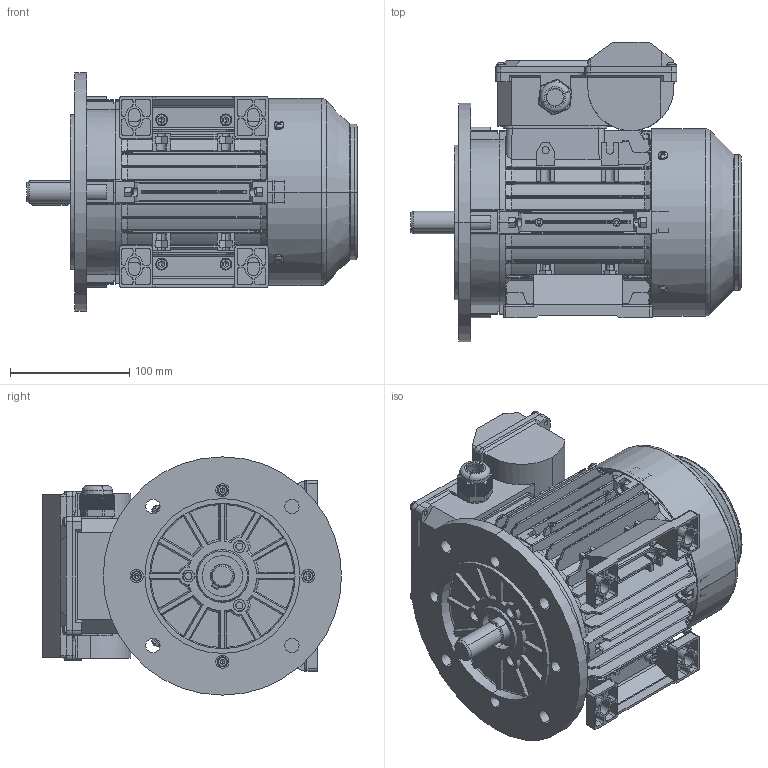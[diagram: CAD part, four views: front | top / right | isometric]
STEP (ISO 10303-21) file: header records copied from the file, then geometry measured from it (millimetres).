
FILE_DESCRIPTION (( 'STEP AP203' ), '1' );
FILE_NAME ('MY2 80 B35.STEP', '2023-08-23T02:05:54', ( '' ), ( '' ), 'SwSTEP 2.0', 'SolidWorks 2016', '' );
FILE_SCHEMA (( 'CONFIG_CONTROL_DESIGN' ));
Length unit declared in the file: millimetre
Products named in the file (19): TA80綴傷裔1; TA80蛌粣; MY80-MY100諉盄碟釱(142x152); cross recessed thread forming screws gb_GB_CROSS_SCREWS_TYPE138 M4X10-N; hexagon socket head cap screws gb_GB_FASTENER_SCREWS_HSHCS M6X20-N; TA80 B5傷裔1; hexagon nuts grade c gb_GB_FASTENER_NUT_SNC1 M5-N; 80-100堤盄蹟杶; MY2 80 B35; T80儂褲; cross recessed thread forming screws gb_GB_CROSS_SCREWS_TYPE138 M4X12-N; MY80-MY100諉盄碟裔(142x152); T80菁褐; hexagon socket head cap screws gb_GB_FASTENER_SCREWS_HSHCS M5X25-N; 瑞珔; hexagon nuts grade c gb_GB_FASTENER_NUT_SNC1 M6-N; plain parallel keys_GB_CONNECTING_PIECE_KEYS_CSK 6X32; MY80-100臏諉盄碟II倰郪磁(142X152); TA80瑞欶
Assembly tree (45 placements, depth 3):
  MY2 80 B35
    T80儂褲
    T80菁褐  x2
    TA80 B5傷裔1
    TA80瑞欶
    TA80蛌粣
    TA80綴傷裔1
    瑞珔
    hexagon socket head cap screws gb_GB_FASTENER_SCREWS_HSHCS M5X25-N  x8
    hexagon nuts grade c gb_GB_FASTENER_NUT_SNC1 M5-N  x8
    cross recessed thread forming screws gb_GB_CROSS_SCREWS_TYPE138 M4X12-N  x4
    plain parallel keys_GB_CONNECTING_PIECE_KEYS_CSK 6X32
    hexagon socket head cap screws gb_GB_FASTENER_SCREWS_HSHCS M6X20-N  x4
    hexagon nuts grade c gb_GB_FASTENER_NUT_SNC1 M6-N  x4
    MY80-100臏諉盄碟II倰郪磁(142X152)
      80-100堤盄蹟杶
      cross recessed thread forming screws gb_GB_CROSS_SCREWS_TYPE138 M4X10-N  x4
      MY80-MY100諉盄碟裔(142x152)
      MY80-MY100諉盄碟釱(142x152)
Bounding box: 277 x 251 x 200 mm (x, y, z)
Volume: 1115389.1 mm3; surface area: 735039.5 mm2
Topology: 44 solids, 44 shells, 4175 faces, 10914 edges, 6897 vertices
Faces by surface type: plane 2247, cylinder 1090, cone 325, bspline 226, torus 171, sphere 116
Entity records: 119711 total; most frequent: CARTESIAN_POINT 33181, ORIENTED_EDGE 18370, DIRECTION 16349, EDGE_CURVE 9185, VERTEX_POINT 5849, AXIS2_PLACEMENT_3D 5594, VECTOR 5161, LINE 5161
